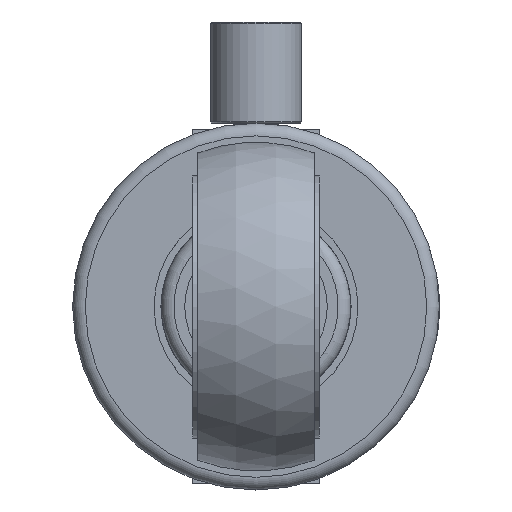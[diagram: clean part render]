
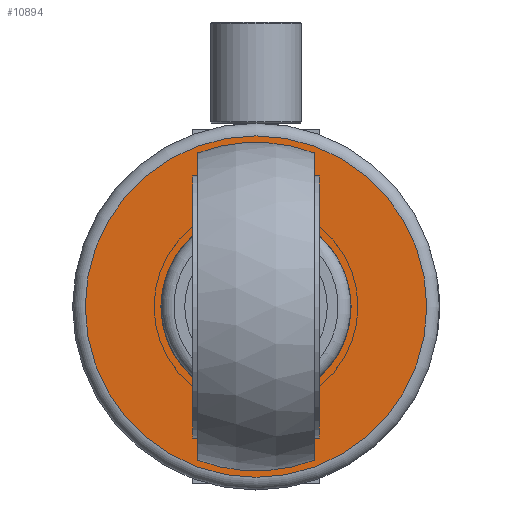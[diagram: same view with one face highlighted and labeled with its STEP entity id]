
A CAD part, front view. The second image highlights one B-rep face of the part: STEP entity #10894.
In plain terms, the highlighted planar face has unit normal (0, -1, 0) as drawn and (0, 0, -1) by its records, which use the part's own axes.
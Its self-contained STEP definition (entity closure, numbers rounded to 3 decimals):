
#1126=FACE_BOUND('',#4095,.T.);
#1363=PLANE('',#11534);
#3419=FACE_OUTER_BOUND('',#4094,.T.);
#4094=EDGE_LOOP('',(#10013));
#4095=EDGE_LOOP('',(#10014));
#4368=CIRCLE('',#11530,37.6);
#4371=CIRCLE('',#11535,67.5);
#5410=VERTEX_POINT('',#28683);
#5413=VERTEX_POINT('',#28693);
#6960=EDGE_CURVE('',#5410,#5410,#4368,.T.);
#6965=EDGE_CURVE('',#5413,#5413,#4371,.T.);
#10013=ORIENTED_EDGE('',*,*,#6965,.F.);
#10014=ORIENTED_EDGE('',*,*,#6960,.F.);
#10894=ADVANCED_FACE('',(#3419,#1126),#1363,.F.);
#11530=AXIS2_PLACEMENT_3D('',#28684,#13229,#13230);
#11534=AXIS2_PLACEMENT_3D('',#28692,#13239,#13240);
#11535=AXIS2_PLACEMENT_3D('',#28694,#13241,#13242);
#13229=DIRECTION('center_axis',(0.,0.,-1.));
#13230=DIRECTION('ref_axis',(-1.,0.,0.));
#13239=DIRECTION('center_axis',(0.,0.,1.));
#13240=DIRECTION('ref_axis',(1.,0.,0.));
#13241=DIRECTION('center_axis',(0.,0.,1.));
#13242=DIRECTION('ref_axis',(1.,0.,0.));
#28683=CARTESIAN_POINT('',(37.6,0.,0.));
#28684=CARTESIAN_POINT('Origin',(0.,0.,0.));
#28692=CARTESIAN_POINT('Origin',(0.,0.,0.));
#28693=CARTESIAN_POINT('',(-67.5,0.,0.));
#28694=CARTESIAN_POINT('Origin',(0.,0.,0.));
